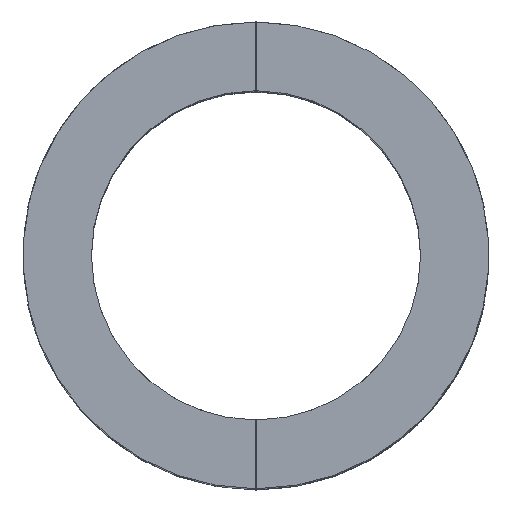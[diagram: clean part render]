
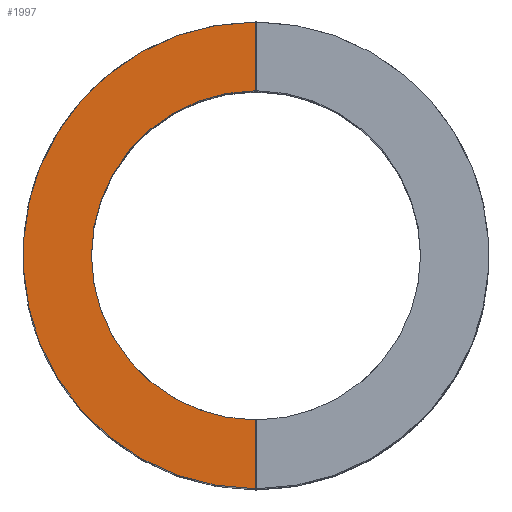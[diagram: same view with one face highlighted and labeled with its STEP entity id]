
A CAD part, top view. The second image highlights one B-rep face of the part: STEP entity #1997.
In plain terms, the highlighted planar face has unit normal (0, 0, 1).
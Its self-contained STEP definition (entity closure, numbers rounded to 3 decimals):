
#39=CIRCLE($,#2150,95.);
#40=CIRCLE($,#2154,67.);
#41=CIRCLE($,#2155,95.);
#42=CIRCLE($,#2156,94.75);
#128=FACE_OUTER_BOUND($,#243,.T.);
#243=EDGE_LOOP($,(#1314,#1315,#1316,#1317,#1318,#1319,#1320,#1321));
#465=LINE($,#3063,#613);
#471=LINE($,#3079,#619);
#475=LINE($,#3111,#623);
#476=LINE($,#3114,#624);
#613=VECTOR($,#2432,28.);
#619=VECTOR($,#2444,28.);
#623=VECTOR($,#2466,0.256);
#624=VECTOR($,#2469,0.256);
#764=VERTEX_POINT($,#3059);
#766=VERTEX_POINT($,#3062);
#770=VERTEX_POINT($,#3071);
#773=VERTEX_POINT($,#3077);
#776=VERTEX_POINT($,#3092);
#779=VERTEX_POINT($,#3108);
#780=VERTEX_POINT($,#3110);
#781=VERTEX_POINT($,#3112);
#969=EDGE_CURVE($,#766,#764,#465,.T.);
#977=EDGE_CURVE($,#770,#773,#471,.T.);
#981=EDGE_CURVE($,#770,#776,#39,.T.);
#986=EDGE_CURVE($,#773,#766,#40,.T.);
#987=EDGE_CURVE($,#779,#764,#41,.T.);
#988=EDGE_CURVE($,#779,#780,#475,.T.);
#989=EDGE_CURVE($,#780,#781,#42,.T.);
#990=EDGE_CURVE($,#781,#776,#476,.T.);
#1314=ORIENTED_EDGE($,*,*,#977,.T.);
#1315=ORIENTED_EDGE($,*,*,#986,.T.);
#1316=ORIENTED_EDGE($,*,*,#969,.T.);
#1317=ORIENTED_EDGE($,*,*,#987,.F.);
#1318=ORIENTED_EDGE($,*,*,#988,.T.);
#1319=ORIENTED_EDGE($,*,*,#989,.T.);
#1320=ORIENTED_EDGE($,*,*,#990,.T.);
#1321=ORIENTED_EDGE($,*,*,#981,.F.);
#1806=PLANE($,#2153);
#1997=ADVANCED_FACE($,(#128),#1806,.F.);
#2150=AXIS2_PLACEMENT_3D($,#3093,#2452,#2453);
#2153=AXIS2_PLACEMENT_3D($,#3106,#2460,#2461);
#2154=AXIS2_PLACEMENT_3D($,#3107,#2462,#2463);
#2155=AXIS2_PLACEMENT_3D($,#3109,#2464,#2465);
#2156=AXIS2_PLACEMENT_3D($,#3113,#2467,#2468);
#2432=DIRECTION($,(0.,1.,0.));
#2444=DIRECTION($,(0.,1.,0.));
#2452=DIRECTION('center_axis',(0.,0.,-1.));
#2453=DIRECTION('ref_axis',(-1.,0.,0.));
#2460=DIRECTION('center_axis',(0.,0.,-1.));
#2461=DIRECTION('ref_axis',(-1.,0.,0.));
#2462=DIRECTION('center_axis',(0.,0.,-1.));
#2463=DIRECTION('ref_axis',(-1.,0.,0.));
#2464=DIRECTION('center_axis',(0.,0.,-1.));
#2465=DIRECTION('ref_axis',(-1.,0.,0.));
#2466=DIRECTION($,(1.,0.,0.));
#2467=DIRECTION('center_axis',(0.,0.,1.));
#2468=DIRECTION('ref_axis',(0.977,-0.211,0.));
#2469=DIRECTION($,(-1.,0.,0.));
#3059=CARTESIAN_POINT('',(-0.25,95.,150.));
#3062=CARTESIAN_POINT('',(-0.25,67.,150.));
#3063=CARTESIAN_POINT($,(-0.25,0.,150.));
#3071=CARTESIAN_POINT('',(-0.25,-95.,150.));
#3077=CARTESIAN_POINT('',(-0.25,-67.,150.));
#3079=CARTESIAN_POINT($,(-0.25,0.,150.));
#3092=CARTESIAN_POINT('',(-92.871,-20.,150.));
#3093=CARTESIAN_POINT('Origin',(0.,0.,150.));
#3106=CARTESIAN_POINT('Origin',(0.,0.,150.));
#3107=CARTESIAN_POINT('Origin',(0.,0.,150.));
#3108=CARTESIAN_POINT('',(-92.871,20.,150.));
#3109=CARTESIAN_POINT('Origin',(0.,0.,150.));
#3110=CARTESIAN_POINT('',(-92.615,20.,150.));
#3111=CARTESIAN_POINT($,(-46.947,20.,150.));
#3112=CARTESIAN_POINT('',(-92.615,-20.,150.));
#3113=CARTESIAN_POINT('Origin',(0.,0.,150.));
#3114=CARTESIAN_POINT($,(-46.308,-20.,150.));
